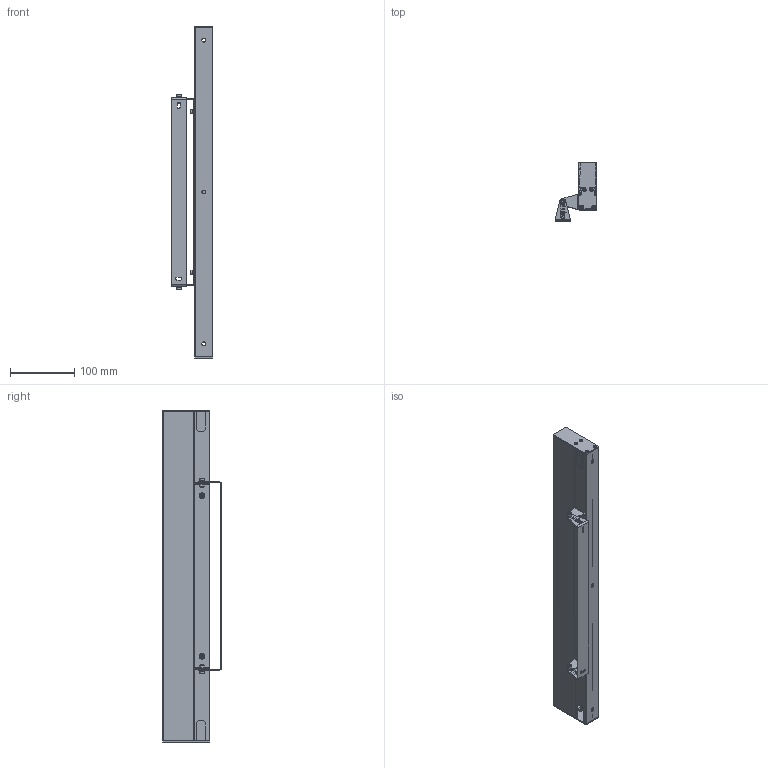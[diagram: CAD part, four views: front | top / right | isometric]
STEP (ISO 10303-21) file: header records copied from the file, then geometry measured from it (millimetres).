
FILE_DESCRIPTION(/* description */ ('Unknown'),/* implementation_level */ '2;1');
FILE_NAME(/* name */ '98842',/* time_stamp */ '2023-02-07T08:09:47-05:00',/* author */ ('Unknown'),/* organization */ ('Unknown'),/* preprocessor_version */ 'ST-DEVELOPER v18.1',/* originating_system */ 'Solid Edge',/* authorisation */ 'Unknown');
FILE_SCHEMA (('AUTOMOTIVE_DESIGN {1 0 10303 214 3 1 1}'));
Length unit declared in the file: millimetre
Products named in the file (13): CONTROCASSA WALL 2017; L-PR020; L-PR0165-RP; L-PR0165; Q2218I; LED-VIT183; LED-RON001; LED-RON002; LED-TAP136; LED-DAD026; LED-STA508; LED-STA507; LED-VIT002
Assembly tree (27 placements, depth 3):
  CONTROCASSA WALL 2017
    L-PR020
    L-PR0165-RP
      L-PR0165
      Q2218I  x2
    LED-VIT183  x4
    LED-RON001  x2
    LED-RON002  x2
    LED-TAP136  x2
    LED-DAD026  x2
    LED-STA508
    LED-STA507
    LED-VIT002  x8
Bounding box: 64.75 x 91 x 517 mm (x, y, z)
Volume: 223437.8 mm3; surface area: 279862.4 mm2
Topology: 26 solids, 26 shells, 1516 faces, 3751 edges, 2250 vertices
Faces by surface type: plane 705, cylinder 523, torus 160, sphere 64, cone 48, bspline 16
Full cylindrical faces by diameter (mm): 3 x8, 3.2 x8, 3.242 x2, 3.422 x2, 3.98 x4, 4 x10, 4.2 x6, 4.5 x2, 4.6 x2, 5.5 x2, 6 x5, 6.9 x2, 7 x4, 7.9 x2, 9 x2
Entity records: 23104 total; most frequent: CARTESIAN_POINT 4771, ORIENTED_EDGE 3502, DIRECTION 3490, EDGE_CURVE 1751, AXIS2_PLACEMENT_3D 1214, VERTEX_POINT 1159, LINE 1062, VECTOR 1062
